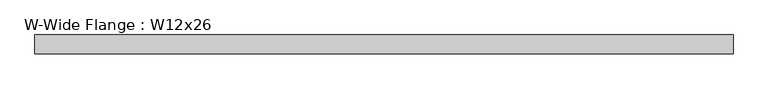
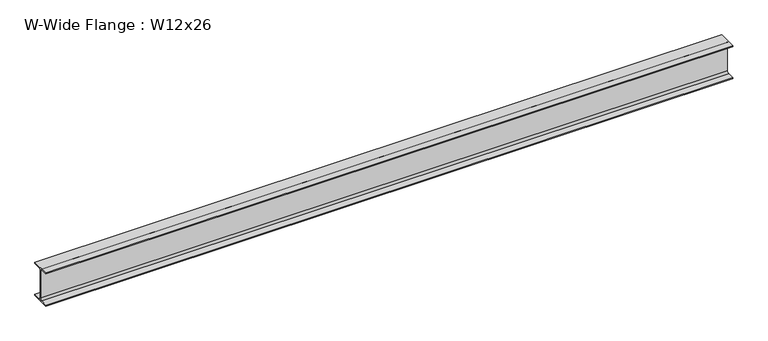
"""IFC4 building model written with IfcOpenShell, lengths in millimetres: beam geometry, W-Wide Flange : W12x26."""

import ifcopenshell
import ifcopenshell.guid

model = None  # the IFC model being written
_history = None  # IfcOwnerHistory: only IFC2X3 demands one
_inside = {}  # id of a spatial element -> (the spatial element, [elements in it])
_under = {}  # id of a project, library or spatial element -> (it, [spatial elements below it])
_declared = {}  # id of a project -> (the project, [libraries it declares])
_typed = {}  # id of a type object -> (the type object, [elements of that type])
_made_of = {}  # id of a material, layer set ... -> (it, [elements and type objects made of it])


def new_model(schema):
    """Start an empty IFC model of exactly this schema.

    Asked for "IFC4X3", IfcOpenShell would pick the latest addendum, in which some entities
    have other attributes; the version numbers below select the first issue.
    IFC2X3 requires an IfcOwnerHistory on every rooted entity: one is made here for all.
    """
    global model, _history
    if schema == "IFC4X3":
        model = ifcopenshell.file(schema_version=(4, 3, 0, 0))
    else:
        model = ifcopenshell.file(schema=schema)
    _inside.clear()
    _under.clear()
    _declared.clear()
    _typed.clear()
    _made_of.clear()
    _history = None
    if model.schema == "IFC2X3":
        org = make("IfcOrganization", Name="unknown")
        user = make(
            "IfcPersonAndOrganization",
            ThePerson=make("IfcPerson", FamilyName="unknown"),
            TheOrganization=org,
        )
        app = make(
            "IfcApplication",
            ApplicationDeveloper=org,
            Version="unknown",
            ApplicationFullName="unknown",
            ApplicationIdentifier="unknown",
        )
        _history = make(
            "IfcOwnerHistory",
            OwningUser=user,
            OwningApplication=app,
            ChangeAction="ADDED",
            CreationDate=0,
        )
    return model


def make(cls, **values):
    """One entity of the class cls with the attributes given. An attribute that is None is left unset."""
    return model.create_entity(
        cls, **{name: value for name, value in values.items() if value is not None}
    )


def rooted(cls, **values):
    """An entity with a GlobalId (a new one), such as an element, a storey or a relation."""
    return make(cls, GlobalId=ifcopenshell.guid.new(), OwnerHistory=_history, **values)


def si_unit(unit_type, name, prefix=None):
    """IfcSIUnit, for example si_unit("LENGTHUNIT", "METRE", prefix="MILLI")."""
    return make("IfcSIUnit", UnitType=unit_type, Prefix=prefix, Name=name)


def assignment(units):
    """IfcUnitAssignment: the units of a project."""
    return None if units is None else make("IfcUnitAssignment", Units=units)


def point(xyz):
    """IfcCartesianPoint."""
    return None if xyz is None else make("IfcCartesianPoint", Coordinates=xyz)


def direction(xyz):
    """IfcDirection."""
    return None if xyz is None else make("IfcDirection", DirectionRatios=xyz)


def frame(location, z_axis=None, x_axis=None):
    """IfcAxis2Placement3D, a coordinate frame: its origin and axes. An axis left out is left unset."""
    return make(
        "IfcAxis2Placement3D",
        Location=point(location),
        Axis=direction(z_axis),
        RefDirection=direction(x_axis),
    )


def frame_2d(location, x_axis=None):
    """IfcAxis2Placement2D, a coordinate frame in the plane: its origin and x axis."""
    return make(
        "IfcAxis2Placement2D", Location=point(location), RefDirection=direction(x_axis)
    )


def origin():
    """The frame at (0, 0, 0) with its axes left unset."""
    return frame((0.0, 0.0, 0.0))


def place(relative_to, where):
    """IfcLocalPlacement: puts the frame where relative to a parent placement (None: the world)."""
    return make(
        "IfcLocalPlacement", PlacementRelTo=relative_to, RelativePlacement=where
    )


def context(
    kind, dimensions, precision=None, world=None, true_north=None, identifier=None
):
    """IfcGeometricRepresentationContext, for example the 3D "Model" context."""
    return make(
        "IfcGeometricRepresentationContext",
        ContextIdentifier=identifier,
        ContextType=kind,
        CoordinateSpaceDimension=dimensions,
        Precision=precision,
        WorldCoordinateSystem=world,
        TrueNorth=true_north,
    )


def project(units=None, contexts=None):
    """IfcProject with its units and contexts."""
    return rooted(
        "IfcProject",
        Name="project",
        RepresentationContexts=contexts,
        UnitsInContext=assignment(units),
    )


def spatial(cls, under=None, at=None, **own):
    """A site, building, storey or space (cls), placed at a placement, below another one or the project."""
    s = rooted(cls, ObjectPlacement=at, **own)
    if under is not None:
        _under.setdefault(under.id(), (under, []))[1].append(s)
    return s


def polyline(points):
    """IfcPolyline through the points."""
    return make("IfcPolyline", Points=[point(p) for p in points])


def circle_curve(where, radius):
    """IfcCircle in the frame where."""
    return make("IfcCircle", Position=where, Radius=radius)


def trimmed(basis, trim1, trim2, sense, master):
    """IfcTrimmedCurve: the piece of a basis curve between two trims."""
    return make(
        "IfcTrimmedCurve",
        BasisCurve=basis,
        Trim1=trim1,
        Trim2=trim2,
        SenseAgreement=sense,
        MasterRepresentation=master,
    )


def segment(curve, same_sense, transition):
    """IfcCompositeCurveSegment."""
    return make(
        "IfcCompositeCurveSegment",
        Transition=transition,
        SameSense=same_sense,
        ParentCurve=curve,
    )


def composite_curve(segments, self_intersect=None):
    """IfcCompositeCurve: segments joined end to end."""
    return make("IfcCompositeCurve", Segments=segments, SelfIntersect=self_intersect)


def outline(outer, holes=None, kind="AREA"):
    """IfcArbitraryClosedProfileDef: a profile drawn as a closed curve; with holes, ...WithVoids."""
    if holes is None:
        return make("IfcArbitraryClosedProfileDef", ProfileType=kind, OuterCurve=outer)
    return make(
        "IfcArbitraryProfileDefWithVoids",
        ProfileType=kind,
        OuterCurve=outer,
        InnerCurves=holes,
    )


def extrude(swept, where, along, depth):
    """IfcExtrudedAreaSolid: the profile swept, set in the frame where, extruded along a direction by depth."""
    return make(
        "IfcExtrudedAreaSolid",
        SweptArea=swept,
        Position=where,
        ExtrudedDirection=direction(along),
        Depth=depth,
    )


def shape(context_of_items, identifier, shape_type, items):
    """IfcShapeRepresentation: the items that make up one representation, for example the "Body"."""
    return make(
        "IfcShapeRepresentation",
        ContextOfItems=context_of_items,
        RepresentationIdentifier=identifier,
        RepresentationType=shape_type,
        Items=items,
    )


def source(mapping_origin, context_of_items, identifier, shape_type, items):
    """IfcRepresentationMap: a shape defined once, which mapped items show again and again."""
    return make(
        "IfcRepresentationMap",
        MappingOrigin=mapping_origin,
        MappedRepresentation=shape(context_of_items, identifier, shape_type, items),
    )


def transform(
    local_origin,
    x_axis=None,
    y_axis=None,
    z_axis=None,
    scale=None,
    scale2=None,
    scale3=None,
    uniform=True,
):
    """IfcCartesianTransformationOperator3D, or its non-uniform kind. x_axis, y_axis, z_axis: its Axis1, 2, 3."""
    if uniform:
        return make(
            "IfcCartesianTransformationOperator3D",
            Axis1=direction(x_axis),
            Axis2=direction(y_axis),
            LocalOrigin=point(local_origin),
            Scale=scale,
            Axis3=direction(z_axis),
        )
    return make(
        "IfcCartesianTransformationOperator3DnonUniform",
        Axis1=direction(x_axis),
        Axis2=direction(y_axis),
        LocalOrigin=point(local_origin),
        Scale=scale,
        Axis3=direction(z_axis),
        Scale2=scale2,
        Scale3=scale3,
    )


def mapped(mapping_source, mapping_target):
    """IfcMappedItem: shows the shape of a source again, moved by a transform."""
    return make(
        "IfcMappedItem", MappingSource=mapping_source, MappingTarget=mapping_target
    )


def made_of(thing, what):
    """Note that an element or type object is made of a material, layer set ...; save() writes the relation."""
    if what is not None:
        _made_of.setdefault(what.id(), (what, []))[1].append(thing)
    return thing


def element(
    cls,
    number,
    at=None,
    inside=None,
    cuts=None,
    type_object=None,
    material=None,
    context=None,
    identifier="Body",
    shape_type=None,
    held_by="IfcProductDefinitionShape",
    body=None,
    shapes=None,
    **own,
):
    """One element of the class cls, such as IfcWall. Its Tag is "e" and its number.

    at: its placement. inside: the storey or other place that contains it. cuts: it is an
    opening in that element (IfcRelVoidsElement). A single representation is given by context,
    identifier, shape_type and body (its items); several are given by shapes. held_by: the class
    of the entity that holds the representations. save() writes the other relations.
    """
    e = rooted(cls, Tag="e%d" % number, ObjectPlacement=at, **own)
    if body is not None:
        shapes = [shape(context, identifier, shape_type, body)]
    if shapes is not None:
        e.Representation = make(held_by, Representations=shapes)
    if inside is not None:
        _inside.setdefault(inside.id(), (inside, []))[1].append(e)
    if cuts is not None:
        rooted(
            "IfcRelVoidsElement", RelatingBuildingElement=cuts, RelatedOpeningElement=e
        )
    if type_object is not None:
        _typed.setdefault(type_object.id(), (type_object, []))[1].append(e)
    return made_of(e, material)


def aggregate(whole, parts):
    """IfcRelAggregates: a whole, such as a stair, and the parts it consists of."""
    return rooted("IfcRelAggregates", RelatingObject=whole, RelatedObjects=parts)


def save(model, path):
    """Write the relations noted so far, then the file.

    IfcRelAggregates (storeys below a building ...), IfcRelContainedInSpatialStructure (elements
    in a storey), IfcRelDefinesByType, IfcRelAssociatesMaterial and IfcRelDeclares: one each for
    every whole, place, type object, material and project.
    """
    for whole, parts in _under.values():
        aggregate(whole, parts)
    for where, things in _inside.values():
        rooted(
            "IfcRelContainedInSpatialStructure",
            RelatedElements=things,
            RelatingStructure=where,
        )
    for kind, things in _typed.values():
        rooted("IfcRelDefinesByType", RelatedObjects=things, RelatingType=kind)
    for what, things in _made_of.values():
        rooted("IfcRelAssociatesMaterial", RelatedObjects=things, RelatingMaterial=what)
    for by, libraries in _declared.values():
        rooted("IfcRelDeclares", RelatingContext=by, RelatedDefinitions=libraries)
    model.write(path)


def w_wide_flange_w12x26_dab5e391(model_context):
    return source(origin(), model_context, "Body", "SweptSolid", [
        extrude(outline(composite_curve([segment(polyline([(82.423, -145.288), (82.423, -154.94), (-82.423, -154.94), (-82.423, -145.288), (-20.2565, -145.288)]), True, "CONTINUOUS"), segment(trimmed(circle_curve(frame_2d((-20.2565, -127.9525)), 17.3355), [point((-20.2565, -145.288))], [point((-2.921, -127.9525))], True, "CARTESIAN"), True, "CONTINUOUS"), segment(polyline([(-2.921, -127.9525), (-2.921, 127.9525)]), True, "CONTINUOUS"), segment(trimmed(circle_curve(frame_2d((-20.2565, 127.9525)), 17.3355), [point((-2.921, 127.9525))], [point((-20.2565, 145.288))], True, "CARTESIAN"), True, "CONTINUOUS"), segment(polyline([(-20.2565, 145.288), (-82.423, 145.288), (-82.423, 154.94), (82.423, 154.94), (82.423, 145.288), (20.2565, 145.288)]), True, "CONTINUOUS"), segment(trimmed(circle_curve(frame_2d((20.2565, 127.9525)), 17.3355), [point((20.2565, 145.288))], [point((2.921, 127.9525))], True, "CARTESIAN"), True, "CONTINUOUS"), segment(polyline([(2.921, 127.9525), (2.921, -127.9525)]), True, "CONTINUOUS"), segment(trimmed(circle_curve(frame_2d((20.2565, -127.9525)), 17.3355), [point((2.921, -127.9525))], [point((20.2565, -145.288))], True, "CARTESIAN"), True, "CONTINUOUS"), segment(polyline([(20.2565, -145.288), (82.423, -145.288)]), True, "CONTINUOUS")], self_intersect=False)), frame((-2952.75, 0.0, 0.0), z_axis=(1.0, 0.0, 0.0), x_axis=(0.0, 1.0, 0.0)), (0.0, 0.0, 1.0), 6051.55),
    ])


if __name__ == "__main__":
    model = new_model("IFC4")
    model_context = context("Model", 3, world=origin())
    ifc_project = project(units=[si_unit("LENGTHUNIT", "METRE", prefix="MILLI")], contexts=[model_context])
    site = spatial("IfcSite", under=ifc_project)
    building = spatial("IfcBuilding", under=site)
    placement = place(None, origin())
    w_wide_flange_w12x26_shape = w_wide_flange_w12x26_dab5e391(model_context)
    element("IfcBeam", 1, ObjectType="W-Wide Flange : W12x26", at=placement, inside=building, context=model_context, shape_type="MappedRepresentation", body=[
        mapped(w_wide_flange_w12x26_shape, transform((0.0, 0.0, 0.0), x_axis=(1.0, 0.0, 0.0), y_axis=(0.0, 1.0, 0.0), z_axis=(0.0, 0.0, 1.0))),
    ])
    save(model, "model.ifc")
